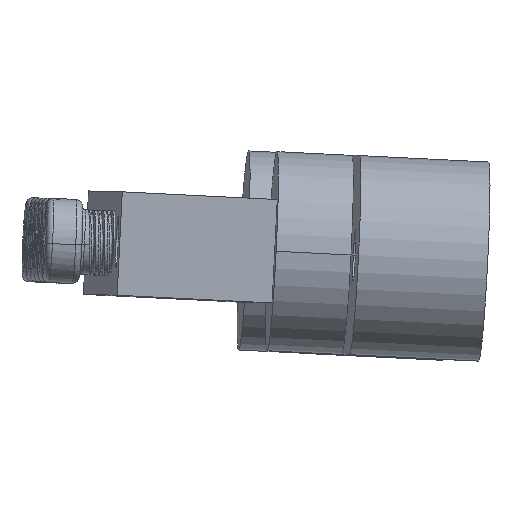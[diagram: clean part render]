
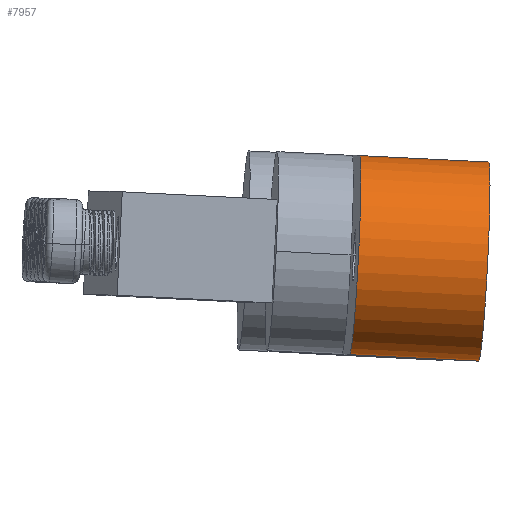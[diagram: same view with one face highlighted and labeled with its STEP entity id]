
A CAD part, left-side view. The second image highlights one B-rep face of the part: STEP entity #7957.
In plain terms, the highlighted cylindrical face has radius 7.7 mm (diameter 15.4 mm), a partial arc.
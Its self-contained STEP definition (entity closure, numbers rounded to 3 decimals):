
#215 = EDGE_LOOP ( 'NONE', ( #10215, #7220, #9355, #3288 ) ) ;
#414 = CYLINDRICAL_SURFACE ( 'NONE', #7931, 7.7 ) ;
#478 = VERTEX_POINT ( 'NONE', #6953 ) ;
#631 = CARTESIAN_POINT ( 'NONE',  ( 14., 0., 10. ) ) ;
#1031 = LINE ( 'NONE', #11123, #1325 ) ;
#1278 = AXIS2_PLACEMENT_3D ( 'NONE', #3830, #9943, #4693 ) ;
#1325 = VECTOR ( 'NONE', #10223, 1000. ) ;
#2014 = EDGE_CURVE ( 'NONE', #478, #11527, #9661, .T. ) ;
#2351 = VECTOR ( 'NONE', #9789, 1000. ) ;
#3209 = FACE_OUTER_BOUND ( 'NONE', #215, .T. ) ;
#3288 = ORIENTED_EDGE ( 'NONE', *, *, #11286, .T. ) ;
#3475 = CARTESIAN_POINT ( 'NONE',  ( 14., 0., 0. ) ) ;
#3712 = CARTESIAN_POINT ( 'NONE',  ( 14., -7.7, 0. ) ) ;
#3830 = CARTESIAN_POINT ( 'NONE',  ( 14., 0., 10. ) ) ;
#3898 = CARTESIAN_POINT ( 'NONE',  ( 14., 7.7, 10. ) ) ;
#4178 = VERTEX_POINT ( 'NONE', #3712 ) ;
#4333 = DIRECTION ( 'NONE',  ( 1., 0., 0. ) ) ;
#4540 = CARTESIAN_POINT ( 'NONE',  ( 14., -7.7, 10. ) ) ;
#4693 = DIRECTION ( 'NONE',  ( 1., 0., 0. ) ) ;
#5471 = CARTESIAN_POINT ( 'NONE',  ( 14., 7.7, 0. ) ) ;
#5892 = EDGE_CURVE ( 'NONE', #4178, #6246, #9955, .T. ) ;
#6246 = VERTEX_POINT ( 'NONE', #5471 ) ;
#6707 = LINE ( 'NONE', #4540, #2351 ) ;
#6883 = DIRECTION ( 'NONE',  ( -1., 0., 0. ) ) ;
#6953 = CARTESIAN_POINT ( 'NONE',  ( 14., -7.7, 10. ) ) ;
#7220 = ORIENTED_EDGE ( 'NONE', *, *, #7874, .F. ) ;
#7445 = AXIS2_PLACEMENT_3D ( 'NONE', #3475, #9577, #4333 ) ;
#7874 = EDGE_CURVE ( 'NONE', #11527, #6246, #1031, .T. ) ;
#7931 = AXIS2_PLACEMENT_3D ( 'NONE', #631, #9423, #6883 ) ;
#7957 = ADVANCED_FACE ( 'NONE', ( #3209 ), #414, .T. ) ;
#9355 = ORIENTED_EDGE ( 'NONE', *, *, #2014, .F. ) ;
#9423 = DIRECTION ( 'NONE',  ( 0., 0., -1. ) ) ;
#9577 = DIRECTION ( 'NONE',  ( 0., 0., 1. ) ) ;
#9661 = CIRCLE ( 'NONE', #1278, 7.7 ) ;
#9789 = DIRECTION ( 'NONE',  ( 0., 0., -1. ) ) ;
#9943 = DIRECTION ( 'NONE',  ( 0., 0., 1. ) ) ;
#9955 = CIRCLE ( 'NONE', #7445, 7.7 ) ;
#10215 = ORIENTED_EDGE ( 'NONE', *, *, #5892, .T. ) ;
#10223 = DIRECTION ( 'NONE',  ( 0., 0., -1. ) ) ;
#11123 = CARTESIAN_POINT ( 'NONE',  ( 14., 7.7, 10. ) ) ;
#11286 = EDGE_CURVE ( 'NONE', #478, #4178, #6707, .T. ) ;
#11527 = VERTEX_POINT ( 'NONE', #3898 ) ;
